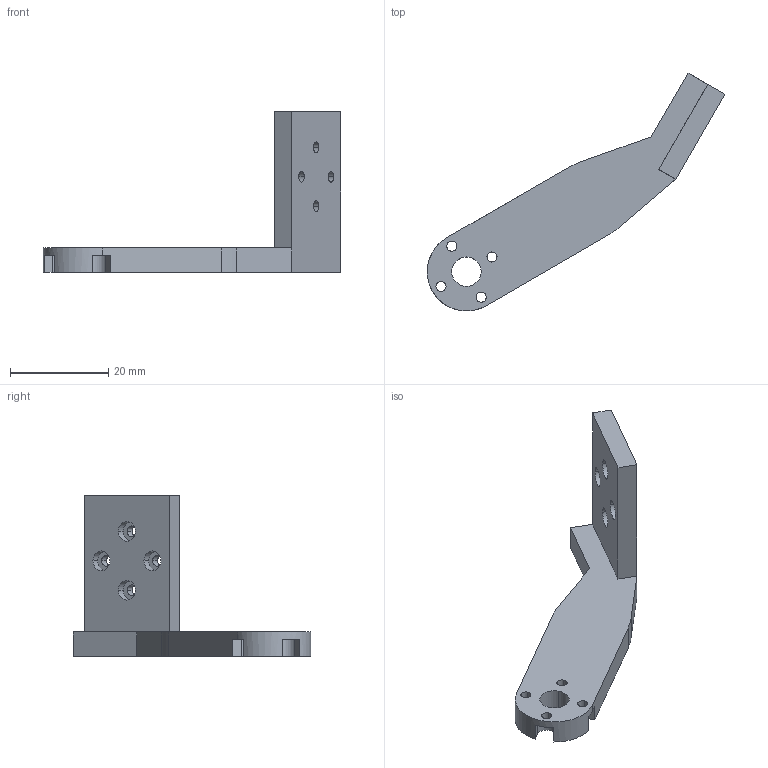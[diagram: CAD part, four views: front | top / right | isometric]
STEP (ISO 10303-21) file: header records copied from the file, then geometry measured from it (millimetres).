
FILE_DESCRIPTION (( 'STEP AP214' ), '1' );
FILE_NAME ('index_3.STEP', '2026-09-17T12:59:33', ( '' ), ( '' ), 'SwSTEP 2.0', 'SolidWorks 2024', '' );
FILE_SCHEMA (( 'AUTOMOTIVE_DESIGN' ));
Length unit declared in the file: millimetre
Products named in the file (2): index_3; Link2_默认
Assembly tree (1 placements, depth 2):
  index_3
    Link2_默认
Bounding box: 60.63 x 48.49 x 32.8 mm (x, y, z)
Volume: 6461.6 mm3; surface area: 4314.4 mm2
Topology: 1 solids, 1 shells, 60 faces, 158 edges, 105 vertices
Faces by surface type: cylinder 34, plane 26
Entity records: 1977 total; most frequent: DIRECTION 358, CARTESIAN_POINT 327, ORIENTED_EDGE 316, EDGE_CURVE 158, AXIS2_PLACEMENT_3D 136, VERTEX_POINT 105, VECTOR 86, LINE 86
